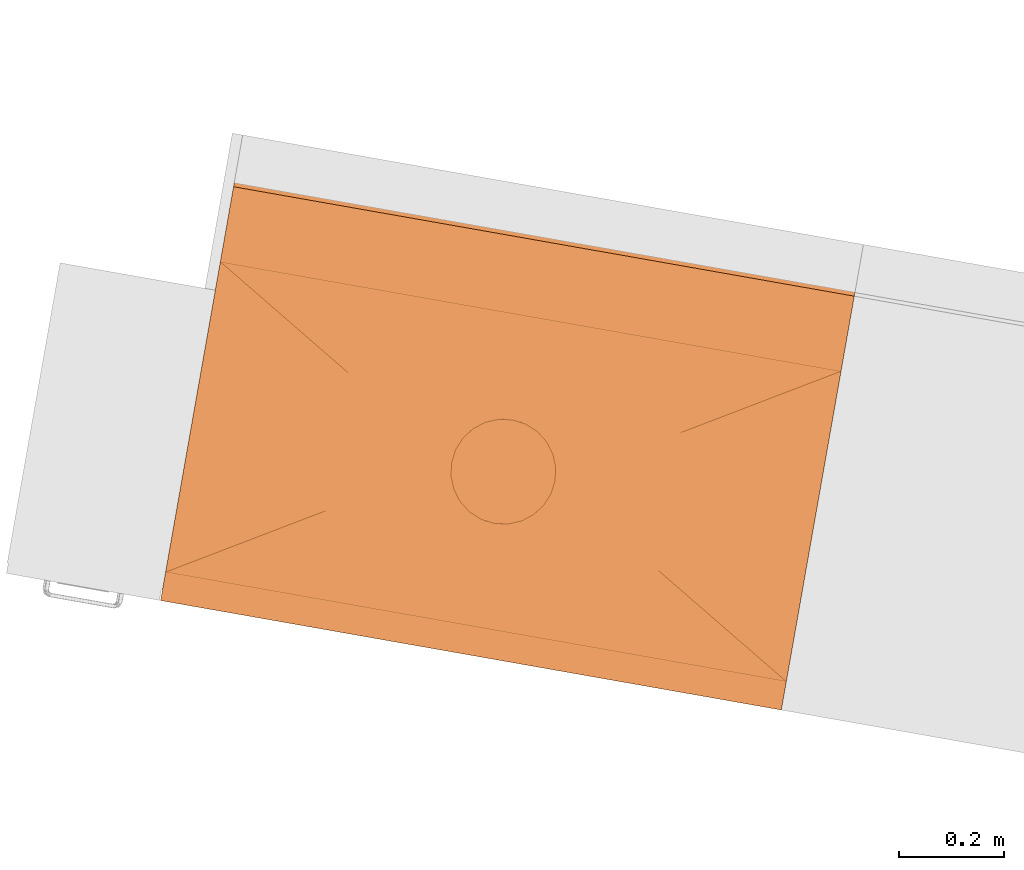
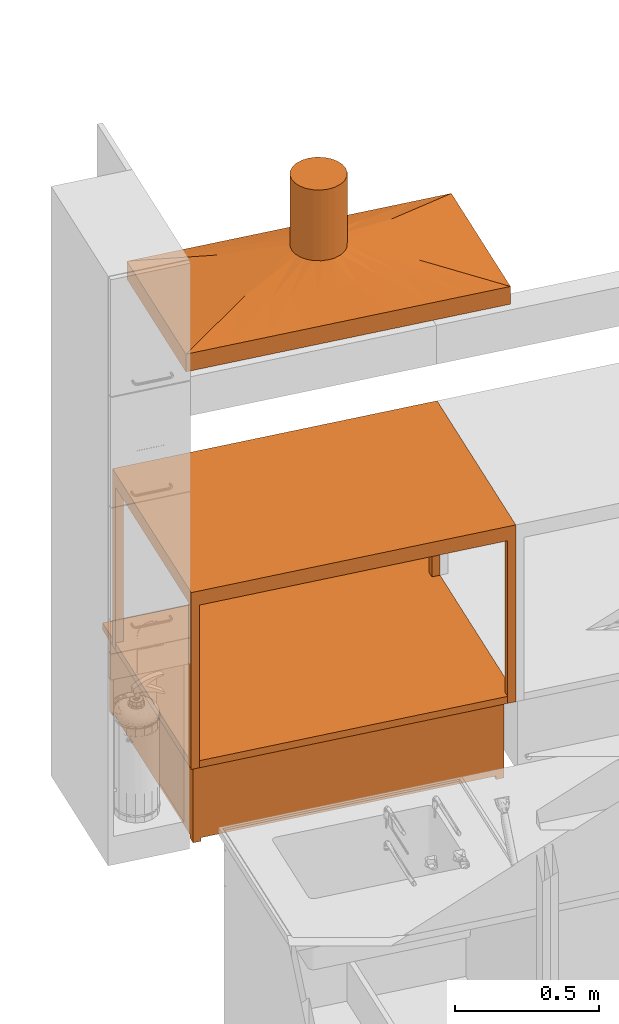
# One storey, part 42 of 43: 3 proxies.
"""IFC2X3 building model written with IfcOpenShell, lengths in metres."""

import ifcopenshell
import ifcopenshell.guid

model = None  # the IFC model being written
_history = None  # IfcOwnerHistory: only IFC2X3 demands one
_inside = {}  # id of a spatial element -> (the spatial element, [elements in it])
_under = {}  # id of a project, library or spatial element -> (it, [spatial elements below it])
_declared = {}  # id of a project -> (the project, [libraries it declares])
_typed = {}  # id of a type object -> (the type object, [elements of that type])
_made_of = {}  # id of a material, layer set ... -> (it, [elements and type objects made of it])


def new_model(schema):
    """Start an empty IFC model of exactly this schema.

    Asked for "IFC4X3", IfcOpenShell would pick the latest addendum, in which some entities
    have other attributes; the version numbers below select the first issue.
    IFC2X3 requires an IfcOwnerHistory on every rooted entity: one is made here for all.
    """
    global model, _history
    if schema == "IFC4X3":
        model = ifcopenshell.file(schema_version=(4, 3, 0, 0))
    else:
        model = ifcopenshell.file(schema=schema)
    _inside.clear()
    _under.clear()
    _declared.clear()
    _typed.clear()
    _made_of.clear()
    _history = None
    if model.schema == "IFC2X3":
        org = make("IfcOrganization", Name="unknown")
        user = make(
            "IfcPersonAndOrganization",
            ThePerson=make("IfcPerson", FamilyName="unknown"),
            TheOrganization=org,
        )
        app = make(
            "IfcApplication",
            ApplicationDeveloper=org,
            Version="unknown",
            ApplicationFullName="unknown",
            ApplicationIdentifier="unknown",
        )
        _history = make(
            "IfcOwnerHistory",
            OwningUser=user,
            OwningApplication=app,
            ChangeAction="ADDED",
            CreationDate=0,
        )
    return model


def make(cls, **values):
    """One entity of the class cls with the attributes given. An attribute that is None is left unset."""
    return model.create_entity(
        cls, **{name: value for name, value in values.items() if value is not None}
    )


def entity(cls, *values):
    """Any entity or typed value of the class cls, its attributes in the order of the schema. None: left unset."""
    e = model.create_entity(cls)
    for i, value in enumerate(values):
        if value is not None:
            e[i] = value
    return e


def rooted(cls, **values):
    """An entity with a GlobalId (a new one), such as an element, a storey or a relation."""
    return make(cls, GlobalId=ifcopenshell.guid.new(), OwnerHistory=_history, **values)


def si_unit(unit_type, name, prefix=None):
    """IfcSIUnit, for example si_unit("LENGTHUNIT", "METRE", prefix="MILLI")."""
    return make("IfcSIUnit", UnitType=unit_type, Prefix=prefix, Name=name)


def converted_unit(unit_type, name, factor, base, dimensions=None, offset=None):
    """IfcConversionBasedUnit, such as the inch: factor (a typed value) times the base unit."""
    return make(
        "IfcConversionBasedUnit"
        if offset is None
        else "IfcConversionBasedUnitWithOffset",
        ConversionOffset=offset,
        Dimensions=None
        if dimensions is None
        else entity("IfcDimensionalExponents", *dimensions),
        UnitType=unit_type,
        Name=name,
        ConversionFactor=make(
            "IfcMeasureWithUnit", ValueComponent=factor, UnitComponent=base
        ),
    )


def derived_unit(unit_type, elements):
    """IfcDerivedUnit: a product of units, each with its exponent."""
    return make(
        "IfcDerivedUnit",
        Elements=[
            make("IfcDerivedUnitElement", Unit=unit, Exponent=power)
            for unit, power in elements
        ],
        UnitType=unit_type,
    )


def assignment(units):
    """IfcUnitAssignment: the units of a project."""
    return None if units is None else make("IfcUnitAssignment", Units=units)


def point(xyz):
    """IfcCartesianPoint."""
    return None if xyz is None else make("IfcCartesianPoint", Coordinates=xyz)


def direction(xyz):
    """IfcDirection."""
    return None if xyz is None else make("IfcDirection", DirectionRatios=xyz)


def frame(location, z_axis=None, x_axis=None):
    """IfcAxis2Placement3D, a coordinate frame: its origin and axes. An axis left out is left unset."""
    return make(
        "IfcAxis2Placement3D",
        Location=point(location),
        Axis=direction(z_axis),
        RefDirection=direction(x_axis),
    )


def origin():
    """The frame at (0, 0, 0) with its axes left unset."""
    return frame((0.0, 0.0, 0.0))


def place(relative_to, where):
    """IfcLocalPlacement: puts the frame where relative to a parent placement (None: the world)."""
    return make(
        "IfcLocalPlacement", PlacementRelTo=relative_to, RelativePlacement=where
    )


def context(
    kind, dimensions, precision=None, world=None, true_north=None, identifier=None
):
    """IfcGeometricRepresentationContext, for example the 3D "Model" context."""
    return make(
        "IfcGeometricRepresentationContext",
        ContextIdentifier=identifier,
        ContextType=kind,
        CoordinateSpaceDimension=dimensions,
        Precision=precision,
        WorldCoordinateSystem=world,
        TrueNorth=true_north,
    )


def subcontext(parent, identifier, kind, view, scale=None):
    """IfcGeometricRepresentationSubContext, for example "Body" below "Model"."""
    return make(
        "IfcGeometricRepresentationSubContext",
        ContextIdentifier=identifier,
        ContextType=kind,
        ParentContext=parent,
        TargetScale=scale,
        TargetView=view,
    )


def project(units=None, contexts=None):
    """IfcProject with its units and contexts."""
    return rooted(
        "IfcProject",
        Name="project",
        RepresentationContexts=contexts,
        UnitsInContext=assignment(units),
    )


def spatial(cls, under=None, at=None, **own):
    """A site, building, storey or space (cls), placed at a placement, below another one or the project."""
    s = rooted(cls, ObjectPlacement=at, **own)
    if under is not None:
        _under.setdefault(under.id(), (under, []))[1].append(s)
    return s


def faces_of(points, faces, orient=None, outer=None):
    """IfcFace entities. A face is a list of loops; a loop is a list of indices into points, from 0.

    orient and outer hold one flag for each loop. By default every Orientation is true, the
    first loop of a face is its IfcFaceOuterBound and the others are IfcFaceBound.
    """
    made = []
    for i, loops in enumerate(faces):
        bounds = []
        for j, loop in enumerate(loops):
            is_outer = j == 0 if outer is None else outer[i][j]
            bounds.append(
                make(
                    "IfcFaceOuterBound" if is_outer else "IfcFaceBound",
                    Bound=make("IfcPolyLoop", Polygon=[points[k] for k in loop]),
                    Orientation=True if orient is None else orient[i][j],
                )
            )
        made.append(make("IfcFace", Bounds=bounds))
    return made


def faceted_brep(points, faces, orient=None, outer=None, voids=None):
    """IfcFacetedBrep: a solid bounded by flat faces; with voids (closed shells), ...WithVoids."""
    shared = [point(p) for p in points]
    hull = make("IfcClosedShell", CfsFaces=faces_of(shared, faces, orient, outer))
    if voids is None:
        return make("IfcFacetedBrep", Outer=hull)
    return make(
        "IfcFacetedBrepWithVoids",
        Outer=hull,
        Voids=[
            make(cls, CfsFaces=faces_of(shared, fs, o, b)) for cls, fs, o, b in voids
        ],
    )


def shape(context_of_items, identifier, shape_type, items):
    """IfcShapeRepresentation: the items that make up one representation, for example the "Body"."""
    return make(
        "IfcShapeRepresentation",
        ContextOfItems=context_of_items,
        RepresentationIdentifier=identifier,
        RepresentationType=shape_type,
        Items=items,
    )


def source(mapping_origin, context_of_items, identifier, shape_type, items):
    """IfcRepresentationMap: a shape defined once, which mapped items show again and again."""
    return make(
        "IfcRepresentationMap",
        MappingOrigin=mapping_origin,
        MappedRepresentation=shape(context_of_items, identifier, shape_type, items),
    )


def transform(
    local_origin,
    x_axis=None,
    y_axis=None,
    z_axis=None,
    scale=None,
    scale2=None,
    scale3=None,
    uniform=True,
):
    """IfcCartesianTransformationOperator3D, or its non-uniform kind. x_axis, y_axis, z_axis: its Axis1, 2, 3."""
    if uniform:
        return make(
            "IfcCartesianTransformationOperator3D",
            Axis1=direction(x_axis),
            Axis2=direction(y_axis),
            LocalOrigin=point(local_origin),
            Scale=scale,
            Axis3=direction(z_axis),
        )
    return make(
        "IfcCartesianTransformationOperator3DnonUniform",
        Axis1=direction(x_axis),
        Axis2=direction(y_axis),
        LocalOrigin=point(local_origin),
        Scale=scale,
        Axis3=direction(z_axis),
        Scale2=scale2,
        Scale3=scale3,
    )


def mapped(mapping_source, mapping_target):
    """IfcMappedItem: shows the shape of a source again, moved by a transform."""
    return make(
        "IfcMappedItem", MappingSource=mapping_source, MappingTarget=mapping_target
    )


def material(Name=None, Category=None):
    """IfcMaterial."""
    return make("IfcMaterial", Name=Name, Category=Category)


def material_list(materials):
    """IfcMaterialList."""
    return make("IfcMaterialList", Materials=materials)


def made_of(thing, what):
    """Note that an element or type object is made of a material, layer set ...; save() writes the relation."""
    if what is not None:
        _made_of.setdefault(what.id(), (what, []))[1].append(thing)
    return thing


def type_object(cls, material=None, **own):
    """A type object (cls), such as IfcWallType, which elements share."""
    return made_of(rooted(cls, **own), material)


def type_shapes(of_type, sources):
    """Give a type object the sources (RepresentationMaps) that its elements show as mapped items."""
    of_type.RepresentationMaps = sources


def element(
    cls,
    number,
    at=None,
    inside=None,
    cuts=None,
    type_object=None,
    material=None,
    context=None,
    identifier="Body",
    shape_type=None,
    held_by="IfcProductDefinitionShape",
    body=None,
    shapes=None,
    **own,
):
    """One element of the class cls, such as IfcWall. Its Tag is "e" and its number.

    at: its placement. inside: the storey or other place that contains it. cuts: it is an
    opening in that element (IfcRelVoidsElement). A single representation is given by context,
    identifier, shape_type and body (its items); several are given by shapes. held_by: the class
    of the entity that holds the representations. save() writes the other relations.
    """
    e = rooted(cls, Tag="e%d" % number, ObjectPlacement=at, **own)
    if body is not None:
        shapes = [shape(context, identifier, shape_type, body)]
    if shapes is not None:
        e.Representation = make(held_by, Representations=shapes)
    if inside is not None:
        _inside.setdefault(inside.id(), (inside, []))[1].append(e)
    if cuts is not None:
        rooted(
            "IfcRelVoidsElement", RelatingBuildingElement=cuts, RelatedOpeningElement=e
        )
    if type_object is not None:
        _typed.setdefault(type_object.id(), (type_object, []))[1].append(e)
    return made_of(e, material)


def aggregate(whole, parts):
    """IfcRelAggregates: a whole, such as a stair, and the parts it consists of."""
    return rooted("IfcRelAggregates", RelatingObject=whole, RelatedObjects=parts)


def save(model, path):
    """Write the relations noted so far, then the file.

    IfcRelAggregates (storeys below a building ...), IfcRelContainedInSpatialStructure (elements
    in a storey), IfcRelDefinesByType, IfcRelAssociatesMaterial and IfcRelDeclares: one each for
    every whole, place, type object, material and project.
    """
    for whole, parts in _under.values():
        aggregate(whole, parts)
    for where, things in _inside.values():
        rooted(
            "IfcRelContainedInSpatialStructure",
            RelatedElements=things,
            RelatingStructure=where,
        )
    for kind, things in _typed.values():
        rooted("IfcRelDefinesByType", RelatedObjects=things, RelatingType=kind)
    for what, things in _made_of.values():
        rooted("IfcRelAssociatesMaterial", RelatedObjects=things, RelatingMaterial=what)
    for by, libraries in _declared.values():
        rooted("IfcRelDeclares", RelatingContext=by, RelatedDefinitions=libraries)
    model.write(path)


model = new_model("IFC2X3")

# Units and contexts
model_context = context("Model", 3, precision=1e-05, world=origin(), true_north=direction((6.12303176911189e-17, 1.0)))
body_context = subcontext(model_context, "Body", "Model", "MODEL_VIEW")
ifc_project = project(units=[si_unit("LENGTHUNIT", "METRE"), si_unit("AREAUNIT", "SQUARE_METRE"), si_unit("VOLUMEUNIT", "CUBIC_METRE"), converted_unit("PLANEANGLEUNIT", "DEGREE", entity("IfcRatioMeasure", 0.0174532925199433), si_unit("PLANEANGLEUNIT", "RADIAN"), dimensions=[0, 0, 0, 0, 0, 0, 0]), si_unit("MASSUNIT", "GRAM", prefix="KILO"), derived_unit("MASSDENSITYUNIT", [(si_unit("MASSUNIT", "GRAM", prefix="KILO"), 1), (si_unit("LENGTHUNIT", "METRE"), -3)]), derived_unit("MOMENTOFINERTIAUNIT", [(si_unit("LENGTHUNIT", "METRE"), 4)]), si_unit("TIMEUNIT", "SECOND"), si_unit("FREQUENCYUNIT", "HERTZ"), si_unit("THERMODYNAMICTEMPERATUREUNIT", "DEGREE_CELSIUS"), derived_unit("THERMALTRANSMITTANCEUNIT", [(si_unit("MASSUNIT", "GRAM", prefix="KILO"), 1), (si_unit("THERMODYNAMICTEMPERATUREUNIT", "KELVIN"), -1), (si_unit("TIMEUNIT", "SECOND"), -3)]), derived_unit("VOLUMETRICFLOWRATEUNIT", [(si_unit("LENGTHUNIT", "METRE"), 3), (si_unit("TIMEUNIT", "SECOND"), -1)]), si_unit("ELECTRICCURRENTUNIT", "AMPERE"), si_unit("ELECTRICVOLTAGEUNIT", "VOLT"), si_unit("POWERUNIT", "WATT"), si_unit("FORCEUNIT", "NEWTON", prefix="KILO"), si_unit("ILLUMINANCEUNIT", "LUX"), si_unit("LUMINOUSFLUXUNIT", "LUMEN"), si_unit("LUMINOUSINTENSITYUNIT", "CANDELA"), derived_unit("USERDEFINED", [(si_unit("MASSUNIT", "GRAM", prefix="KILO"), -1), (si_unit("LENGTHUNIT", "METRE"), -2), (si_unit("TIMEUNIT", "SECOND"), 3), (si_unit("LUMINOUSFLUXUNIT", "LUMEN"), 1)]), derived_unit("LINEARVELOCITYUNIT", [(si_unit("LENGTHUNIT", "METRE"), 1), (si_unit("TIMEUNIT", "SECOND"), -1)]), si_unit("PRESSUREUNIT", "PASCAL"), derived_unit("USERDEFINED", [(si_unit("LENGTHUNIT", "METRE"), -2), (si_unit("MASSUNIT", "GRAM", prefix="KILO"), 1), (si_unit("TIMEUNIT", "SECOND"), -2)]), derived_unit("LINEARFORCEUNIT", [(si_unit("MASSUNIT", "GRAM", prefix="KILO"), 1), (si_unit("LENGTHUNIT", "METRE"), 1), (si_unit("TIMEUNIT", "SECOND"), -2), (si_unit("LENGTHUNIT", "METRE"), -1)]), derived_unit("PLANARFORCEUNIT", [(si_unit("MASSUNIT", "GRAM", prefix="KILO"), 1), (si_unit("LENGTHUNIT", "METRE"), 1), (si_unit("TIMEUNIT", "SECOND"), -2), (si_unit("LENGTHUNIT", "METRE"), -2)])], contexts=[model_context])

# Site, building, storey
site_placement = place(None, origin())
site = spatial("IfcSite", under=ifc_project, at=site_placement, Name="Default", CompositionType="ELEMENT")
building_placement = place(site_placement, origin())
building = spatial("IfcBuilding", under=site, at=building_placement, CompositionType="ELEMENT")
storey_placement = place(building_placement, frame((0.0, 0.0, 3.0)))
storey = spatial("IfcBuildingStorey", under=building, at=storey_placement, Name="01 OG", CompositionType="ELEMENT", Elevation=3.0)

# Proxies
ifc_material_1 = material(Name="dh_Weiß")
ifc_material_2 = material(Name="dh_EZ blau")
ifc_material_list_1 = material_list([ifc_material_1, ifc_material_2])
ifc_material_list_2 = material_list([ifc_material_2, ifc_material_1])
building_element_proxy_type_1 = type_object("IfcBuildingElementProxyType", Name="dh_Tieftisch:dh_Tieftisch 120", PredefinedType="NOTDEFINED", material=ifc_material_list_2)
shared_shape_1 = source(origin(), body_context, "Body", "Brep", [
    faceted_brep([(0.600000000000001, 0.425, 0.379999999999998), (-0.599999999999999, 0.425, 0.380000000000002), (-0.599999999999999, -0.475, 0.380000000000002), (0.600000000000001, -0.475, 0.379999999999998), (0.600000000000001, 0.425, 0.349999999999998), (0.600000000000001, -0.475, 0.349999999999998), (-0.599999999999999, -0.475, 0.350000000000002), (-0.599999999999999, 0.425, 0.350000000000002)], [[[0, 1, 2, 3]], [[4, 5, 6, 7]], [[1, 0, 4, 7]], [[2, 1, 7, 6]], [[3, 2, 6, 5]], [[0, 3, 5, 4]]]),
    faceted_brep([(0.575000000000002, 0.425, 0.349999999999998), (-0.574999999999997, 0.425, 0.350000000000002), (-0.574999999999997, -0.425, 0.350000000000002), (0.575000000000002, -0.425, 0.349999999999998), (0.545000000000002, 0.395, 0.349999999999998), (0.545000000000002, -0.395, 0.349999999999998), (-0.544999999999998, -0.395, 0.350000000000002), (-0.544999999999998, 0.395, 0.350000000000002), (-0.544999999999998, 0.395, 0.320000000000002), (-0.544999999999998, -0.395, 0.320000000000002), (-0.574999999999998, -0.395, 0.320000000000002), (-0.574999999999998, 0.395, 0.320000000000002), (0.575, 0.425, 0.0), (0.545, 0.425, 0.0), (0.545, 0.425, 0.319999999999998), (-0.544999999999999, 0.425, 0.32), (-0.544999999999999, 0.425, 0.0), (-0.574999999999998, 0.425, 0.0), (-0.575, 0.395, 0.0), (-0.575, -0.395, 0.0), (-0.575, -0.425, 0.0), (-0.544999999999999, -0.425, 0.0), (-0.544999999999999, -0.425, 0.320000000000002), (0.545, -0.425, 0.32), (0.545, -0.425, 0.0), (0.575000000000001, -0.425, 0.0), (0.575, -0.395, 0.0), (0.575000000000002, -0.395, 0.319999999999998), (0.575000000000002, 0.395, 0.32), (0.575, 0.395, 0.0), (0.545000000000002, 0.395, 0.319999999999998), (0.545000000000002, -0.395, 0.319999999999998), (-0.544999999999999, -0.395, 0.0), (-0.544999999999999, 0.395, 0.0), (0.545, 0.395, 0.0), (0.545, -0.395, 0.0)], [[[0, 1, 2, 3], [4, 5, 6, 7]], [[8, 9, 10, 11]], [[1, 0, 12, 13, 14, 15, 16, 17]], [[2, 1, 17, 18, 11, 10, 19, 20]], [[3, 2, 20, 21, 22, 23, 24, 25]], [[12, 0, 3, 25, 26, 27, 28, 29]], [[5, 4, 30, 31]], [[6, 5, 31, 9]], [[7, 6, 9, 8]], [[4, 7, 8, 30]], [[21, 20, 19, 32]], [[18, 33, 8, 11]], [[33, 16, 15, 8]], [[13, 34, 30, 14]], [[34, 29, 28, 30]], [[21, 32, 9, 22]], [[32, 19, 10, 9]], [[26, 35, 31, 27]], [[35, 24, 23, 31]], [[16, 33, 18, 17]], [[24, 35, 26, 25]], [[13, 12, 29, 34]], [[9, 31, 23, 22]], [[30, 8, 15, 14]], [[31, 30, 28, 27]]]),
    faceted_brep([(-0.575, -0.395, 0.32), (-0.570000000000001, -0.395, 0.32), (-0.570000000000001, 0.395, 0.32), (-0.575, 0.395, 0.32), (-0.575, -0.395, 0.0149999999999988), (-0.570000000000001, -0.395, 0.0149999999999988), (-0.570000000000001, 0.395, 0.0149999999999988), (-0.575, 0.395, 0.0149999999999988)], [[[0, 1, 2, 3]], [[1, 0, 4, 5]], [[2, 1, 5, 6]], [[3, 2, 6, 7]], [[0, 3, 7, 4]], [[4, 7, 6, 5]]]),
    faceted_brep([(0.575, 0.395, 0.0149999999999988), (0.575, -0.395, 0.0149999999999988), (0.57, -0.395, 0.0149999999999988), (0.57, 0.395, 0.0149999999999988), (0.57, 0.395, 0.32), (0.575, 0.395, 0.32), (0.57, -0.395, 0.32), (0.575, -0.395, 0.32)], [[[0, 1, 2, 3]], [[4, 5, 0, 3]], [[6, 4, 3, 2]], [[7, 6, 2, 1]], [[5, 7, 1, 0]], [[5, 4, 6, 7]]]),
    faceted_brep([(0.545, -0.420000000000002, 0.32), (0.545, -0.425, 0.32), (0.545, -0.425, 0.0149999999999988), (0.545, -0.420000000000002, 0.0149999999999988), (-0.545, -0.420000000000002, 0.32), (-0.544999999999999, -0.420000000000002, 0.0149999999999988), (-0.544999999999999, -0.425, 0.32), (-0.544999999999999, -0.425, 0.0149999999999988)], [[[0, 1, 2, 3]], [[4, 0, 3, 5]], [[6, 4, 5, 7]], [[1, 6, 7, 2]], [[2, 7, 5, 3]], [[1, 0, 4, 6]]]),
])
type_shapes(building_element_proxy_type_1, [shared_shape_1])
proxy_1_placement = place(storey_placement, frame((28.0610393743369, 15.687439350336, 0.0), z_axis=(0.0, 0.0, 1.0), x_axis=(0.984807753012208, -0.173648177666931, 0.0)))
element("IfcBuildingElementProxy", 1, at=proxy_1_placement, inside=storey, type_object=building_element_proxy_type_1, material=ifc_material_list_1, Name="dh_Tieftisch:dh_Tieftisch 120", ObjectType="dh_Tieftisch:dh_Tieftisch 120", context=body_context, shape_type="MappedRepresentation", body=[
    mapped(shared_shape_1, transform((0.0, 0.0, 0.0), scale=1.0)),
])
ifc_material_3 = material(Name="Schwarz")
ifc_material_list_3 = material_list([ifc_material_1, ifc_material_2, ifc_material_3])
ifc_material_list_4 = material_list([ifc_material_3, ifc_material_1])
building_element_proxy_type_2 = type_object("IfcBuildingElementProxyType", Name="dh_Tisch:dh_Tisch", PredefinedType="NOTDEFINED", material=ifc_material_list_4)
shared_shape_2 = source(origin(), body_context, "Body", "Brep", [
    faceted_brep([(0.59999999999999, 0.0, 0.749999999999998), (-0.599999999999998, 0.0, 0.750000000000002), (-0.599999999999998, -0.8, 0.750000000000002), (0.600000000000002, -0.8, 0.749999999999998), (0.59999999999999, 0.0, 0.719999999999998), (0.600000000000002, -0.8, 0.719999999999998), (-0.599999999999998, -0.8, 0.720000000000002), (-0.599999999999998, 0.0, 0.720000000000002)], [[[0, 1, 2, 3]], [[4, 5, 6, 7]], [[1, 0, 4, 7]], [[2, 1, 7, 6]], [[3, 2, 6, 5]], [[0, 3, 5, 4]]]),
    faceted_brep([(0.57, -0.8, 0.00499999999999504), (0.57, -0.770000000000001, 0.00499999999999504), (0.6, -0.770000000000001, 0.00499999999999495), (0.6, -0.8, 0.00499999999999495), (-0.6, -0.0300000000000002, 0.00499999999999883), (-0.57, -0.0300000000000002, 0.00499999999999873), (-0.569999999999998, -0.0300000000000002, 0.690000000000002), (-0.599999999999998, -0.0300000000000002, 0.690000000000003), (-0.57, 0.0, 0.00499999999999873), (-0.569999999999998, 0.0, 0.690000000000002), (-0.6, 0.0, 0.00499999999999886), (-0.599999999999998, 0.0, 0.720000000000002), (0.59999999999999, 0.0, 0.719999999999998), (0.6, 0.0, 0.00499999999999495), (0.57, 0.0, 0.00499999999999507), (0.570000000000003, 0.0, 0.689999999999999), (-0.599999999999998, -0.770000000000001, 0.690000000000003), (-0.6, -0.770000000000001, 0.00499999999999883), (-0.6, -0.8, 0.00499999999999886), (-0.599999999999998, -0.8, 0.720000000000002), (0.57, -0.030000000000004, 0.00499999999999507), (0.570000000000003, -0.030000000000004, 0.689999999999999), (0.6, -0.030000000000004, 0.00499999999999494), (0.600000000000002, -0.030000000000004, 0.689999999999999), (0.600000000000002, -0.8, 0.719999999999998), (0.600000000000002, -0.770000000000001, 0.689999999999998), (-0.57, -0.8, 0.00499999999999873), (-0.569999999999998, -0.8, 0.690000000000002), (0.570000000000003, -0.8, 0.689999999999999), (0.570000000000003, -0.770000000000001, 0.689999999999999), (-0.57, -0.770000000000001, 0.00499999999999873), (-0.569999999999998, -0.770000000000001, 0.690000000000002), (0.569999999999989, -0.0300000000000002, 0.719999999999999), (0.570000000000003, -0.770000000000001, 0.719999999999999), (-0.569999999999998, -0.770000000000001, 0.720000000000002), (-0.569999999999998, -0.0300000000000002, 0.720000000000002)], [[[0, 1, 2, 3]], [[4, 5, 6, 7]], [[5, 8, 9, 6]], [[8, 10, 11, 12, 13, 14, 15, 9]], [[11, 10, 4, 7, 16, 17, 18, 19]], [[14, 20, 21, 15]], [[20, 22, 23, 21]], [[22, 13, 12, 24, 3, 2, 25, 23]], [[0, 3, 24, 19, 18, 26, 27, 28]], [[2, 1, 29, 25]], [[1, 0, 28, 29]], [[26, 30, 31, 27]], [[30, 17, 16, 31]], [[12, 11, 19, 24], [32, 33, 34, 35]], [[6, 31, 16, 7]], [[33, 32, 21, 29]], [[34, 33, 29, 31]], [[35, 34, 31, 6]], [[32, 35, 6, 21]], [[31, 29, 28, 27]], [[21, 6, 9, 15]], [[29, 21, 23, 25]], [[14, 13, 22, 20]], [[4, 10, 8, 5]], [[17, 30, 26, 18]]]),
    faceted_brep([(-0.6, -0.8, 0.00499999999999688), (-0.57, -0.8, 0.00499999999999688), (-0.57, -0.770000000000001, 0.00499999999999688), (-0.6, -0.770000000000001, 0.00499999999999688), (-0.6, -0.8, 0.0), (-0.57, -0.8, 0.0), (-0.57, -0.770000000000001, 0.0), (-0.6, -0.770000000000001, 0.0)], [[[0, 1, 2, 3]], [[1, 0, 4, 5]], [[2, 1, 5, 6]], [[3, 2, 6, 7]], [[0, 3, 7, 4]], [[4, 7, 6, 5]]]),
    faceted_brep([(0.57, -0.8, 0.0), (0.57, -0.770000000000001, 0.0), (0.6, -0.770000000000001, 0.0), (0.6, -0.8, 0.0), (0.6, -0.8, 0.00499999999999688), (0.57, -0.8, 0.00499999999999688), (0.6, -0.770000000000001, 0.00499999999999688), (0.57, -0.770000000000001, 0.00499999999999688)], [[[0, 1, 2, 3]], [[4, 5, 0, 3]], [[6, 4, 3, 2]], [[7, 6, 2, 1]], [[5, 7, 1, 0]], [[5, 4, 6, 7]]]),
    faceted_brep([(-0.57, -0.0300000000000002, 0.00499999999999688), (-0.6, -0.0300000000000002, 0.00499999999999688), (-0.6, -0.0300000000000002, 0.0), (-0.57, -0.0300000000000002, 0.0), (-0.57, 0.0, 0.00499999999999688), (-0.57, 0.0, 0.0), (-0.6, 0.0, 0.00499999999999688), (-0.6, 0.0, 0.0)], [[[0, 1, 2, 3]], [[4, 0, 3, 5]], [[6, 4, 5, 7]], [[1, 6, 7, 2]], [[2, 7, 5, 3]], [[1, 0, 4, 6]]]),
    faceted_brep([(0.6, -0.030000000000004, 0.00499999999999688), (0.57, -0.030000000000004, 0.00499999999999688), (0.57, -0.030000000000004, 0.0), (0.6, -0.030000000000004, 0.0), (0.6, 0.0, 0.00499999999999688), (0.6, 0.0, 0.0), (0.57, 0.0, 0.00499999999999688), (0.57, 0.0, 0.0)], [[[0, 1, 2, 3]], [[4, 0, 3, 5]], [[6, 4, 5, 7]], [[1, 6, 7, 2]], [[2, 7, 5, 3]], [[1, 0, 4, 6]]]),
])
type_shapes(building_element_proxy_type_2, [shared_shape_2])
proxy_2_placement = place(storey_placement, frame((28.1174750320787, 16.0075018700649, 0.35), z_axis=(0.0, 0.0, 1.0), x_axis=(0.984807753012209, -0.173648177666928, 0.0)))
element("IfcBuildingElementProxy", 2, at=proxy_2_placement, inside=storey, type_object=building_element_proxy_type_2, material=ifc_material_list_3, Name="dh_Tisch:dh_Tisch", ObjectType="dh_Tisch:dh_Tisch", context=body_context, shape_type="MappedRepresentation", body=[
    mapped(shared_shape_2, transform((0.0, 0.0, 0.0), scale=1.0)),
])
ifc_material_4 = material(Name="dh_Edelstahl_Horizontal")
building_element_proxy_type_3 = type_object("IfcBuildingElementProxyType", Name="dh_Absaughaube:dh_Absaughaube", PredefinedType="NOTDEFINED", material=ifc_material_4)
shared_shape_3 = source(origin(), body_context, "Body", "Brep", [
    faceted_brep([(0.649999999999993, 0.213397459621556, 0.500000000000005), (0.670710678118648, 0.229289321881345, 0.500000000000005), (0.686602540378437, 0.25, 0.500000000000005), (0.6965925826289, 0.274118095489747, 0.500000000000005), (0.699999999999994, 0.3, 0.500000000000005), (0.6965925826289, 0.325881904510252, 0.500000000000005), (0.686602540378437, 0.35, 0.500000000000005), (0.670710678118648, 0.370710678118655, 0.500000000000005), (0.649999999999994, 0.386602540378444, 0.500000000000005), (0.625881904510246, 0.396592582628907, 0.500000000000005), (0.599999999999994, 0.4, 0.500000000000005), (0.574118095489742, 0.396592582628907, 0.500000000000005), (0.549999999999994, 0.386602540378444, 0.500000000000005), (0.529289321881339, 0.370710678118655, 0.500000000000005), (0.51339745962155, 0.35, 0.500000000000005), (0.503407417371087, 0.325881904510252, 0.500000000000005), (0.499999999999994, 0.3, 0.500000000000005), (0.503407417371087, 0.274118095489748, 0.500000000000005), (0.513397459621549, 0.25, 0.500000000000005), (0.529289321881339, 0.229289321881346, 0.500000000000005), (0.549999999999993, 0.213397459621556, 0.500000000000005), (0.574118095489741, 0.203407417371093, 0.500000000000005), (0.599999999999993, 0.2, 0.500000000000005), (0.625881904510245, 0.203407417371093, 0.500000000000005), (0.670710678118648, 0.370710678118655, 0.200000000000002), (0.686602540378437, 0.35, 0.200000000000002), (0.6965925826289, 0.325881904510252, 0.200000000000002), (0.699999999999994, 0.299999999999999, 0.200000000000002), (0.6965925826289, 0.274118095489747, 0.200000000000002), (0.686602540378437, 0.25, 0.200000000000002), (0.670710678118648, 0.229289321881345, 0.200000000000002), (0.649999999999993, 0.213397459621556, 0.200000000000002), (0.625881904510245, 0.203407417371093, 0.200000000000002), (0.599999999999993, 0.2, 0.200000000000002), (0.574118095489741, 0.203407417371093, 0.200000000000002), (0.549999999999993, 0.213397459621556, 0.200000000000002), (0.529289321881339, 0.229289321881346, 0.200000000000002), (0.513397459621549, 0.25, 0.200000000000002), (0.503407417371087, 0.274118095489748, 0.200000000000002), (0.499999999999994, 0.3, 0.200000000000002), (0.503407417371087, 0.325881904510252, 0.200000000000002), (0.51339745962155, 0.35, 0.200000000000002), (0.529289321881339, 0.370710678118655, 0.200000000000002), (0.549999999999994, 0.386602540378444, 0.200000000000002), (0.574118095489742, 0.396592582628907, 0.200000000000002), (0.599999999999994, 0.4, 0.200000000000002), (0.625881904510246, 0.396592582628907, 0.200000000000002), (0.649999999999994, 0.386602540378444, 0.200000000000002)], [[[0, 1, 2, 3, 4, 5, 6, 7, 8, 9, 10, 11, 12, 13, 14, 15, 16, 17, 18, 19, 20, 21, 22, 23]], [[24, 25, 26, 27, 28, 29, 30, 31, 32, 33, 34, 35, 36, 37, 38, 39, 40, 41, 42, 43, 44, 45, 46, 47]], [[17, 38, 37, 18]], [[36, 19, 18, 37]], [[20, 35, 34, 21]], [[36, 35, 20, 19]], [[21, 34, 33, 22]], [[38, 17, 16, 39]], [[23, 32, 31, 0]], [[30, 1, 0, 31]], [[2, 29, 28, 3]], [[30, 29, 2, 1]], [[3, 28, 27, 4]], [[32, 23, 22, 33]], [[6, 25, 24, 7]], [[8, 47, 46, 9]], [[24, 47, 8, 7]], [[9, 46, 45, 10]], [[27, 26, 5, 4]], [[5, 26, 25, 6]], [[11, 44, 43, 12]], [[42, 13, 12, 43]], [[14, 41, 40, 15]], [[42, 41, 14, 13]], [[15, 40, 39, 16]], [[44, 11, 10, 45]]]),
    faceted_brep([(0.582635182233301, 0.398480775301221, 0.200000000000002), (0.549999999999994, 0.386602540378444, 0.200000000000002), (0.523395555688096, 0.364278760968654, 0.200000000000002), (0.506030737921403, 0.334202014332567, 0.200000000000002), (0.499999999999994, 0.3, 0.200000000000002), (0.506030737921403, 0.265797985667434, 0.200000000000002), (0.523395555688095, 0.235721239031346, 0.200000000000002), (0.549999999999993, 0.213397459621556, 0.200000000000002), (0.5826351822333, 0.201519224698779, 0.200000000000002), (0.617364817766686, 0.201519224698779, 0.200000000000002), (0.649999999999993, 0.213397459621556, 0.200000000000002), (0.676604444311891, 0.235721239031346, 0.200000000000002), (0.693969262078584, 0.265797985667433, 0.200000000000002), (0.699999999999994, 0.3, 0.200000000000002), (0.693969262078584, 0.334202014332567, 0.200000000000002), (0.676604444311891, 0.364278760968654, 0.200000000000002), (0.649999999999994, 0.386602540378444, 0.200000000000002), (0.617364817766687, 0.398480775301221, 0.200000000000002), (1.2, 0.0, 0.0750000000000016), (1.05, 0.0, 0.0750000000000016), (0.9, 0.0, 0.0750000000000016), (0.75, 0.0, 0.0750000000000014), (0.6, 0.0, 0.0750000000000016), (0.45, 0.0, 0.0750000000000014), (0.3, 0.0, 0.0750000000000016), (0.15, 0.0, 0.0750000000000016), (0.0, 0.0, 0.0750000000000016), (0.0, 0.6, 0.0750000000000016), (0.15, 0.6, 0.0750000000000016), (0.3, 0.6, 0.0750000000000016), (0.45, 0.6, 0.0750000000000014), (0.6, 0.6, 0.0750000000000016), (0.75, 0.6, 0.0750000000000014), (0.9, 0.6, 0.0750000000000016), (1.05, 0.6, 0.0750000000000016), (1.2, 0.6, 0.0750000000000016), (0.276043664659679, 0.16562619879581, 0.144010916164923), (0.276043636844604, 0.434373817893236, 0.144010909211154), (0.923956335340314, 0.43437380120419, 0.144010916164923), (0.923956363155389, 0.165626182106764, 0.144010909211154), (0.837131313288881, 0.470078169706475, 0.139960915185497), (0.673268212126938, 0.493879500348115, 0.139764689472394), (0.600000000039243, 0.490999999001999, 0.143125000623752), (0.362868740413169, 0.47007812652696, 0.139960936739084), (0.43005670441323, 0.48171871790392, 0.140388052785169), (0.769943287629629, 0.481718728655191, 0.140388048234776), (0.526731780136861, 0.493879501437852, 0.139764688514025), (0.263939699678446, 0.488065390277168, 0.12599489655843), (0.362868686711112, 0.129921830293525, 0.139960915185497), (0.526731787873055, 0.106120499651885, 0.139764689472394), (0.59999999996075, 0.109000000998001, 0.143125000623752), (0.837131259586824, 0.12992187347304, 0.139960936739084), (0.769943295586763, 0.11828128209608, 0.140388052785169), (0.430056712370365, 0.11828127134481, 0.140388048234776), (0.673268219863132, 0.106120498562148, 0.139764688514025), (0.936060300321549, 0.111934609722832, 0.12599489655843)], [[[0, 1, 2, 3, 4, 5, 6, 7, 8, 9, 10, 11, 12, 13, 14, 15, 16, 17]], [[18, 19, 20, 21, 22, 23, 24, 25, 26, 27, 28, 29, 30, 31, 32, 33, 34, 35]], [[27, 26, 36, 4, 37]], [[18, 35, 38, 13, 39]], [[40, 15, 14]], [[41, 32, 31]], [[17, 42, 0]], [[38, 35, 34]], [[40, 38, 34]], [[29, 43, 44]], [[45, 15, 40]], [[14, 13, 38]], [[32, 41, 45]], [[41, 31, 42]], [[42, 46, 0]], [[28, 43, 29]], [[33, 40, 34]], [[42, 31, 46]], [[40, 33, 45]], [[2, 43, 3]], [[3, 43, 47]], [[37, 47, 27]], [[38, 40, 14]], [[3, 37, 4]], [[43, 2, 44]], [[44, 30, 29]], [[47, 43, 28]], [[32, 45, 33]], [[16, 15, 45]], [[2, 1, 44]], [[44, 1, 46]], [[42, 17, 41]], [[46, 31, 30]], [[17, 16, 41]], [[45, 41, 16]], [[44, 46, 30]], [[1, 0, 46]], [[27, 47, 28]], [[3, 47, 37]], [[48, 6, 5]], [[49, 23, 22]], [[8, 50, 9]], [[36, 26, 25]], [[48, 36, 25]], [[20, 51, 52]], [[53, 6, 48]], [[5, 4, 36]], [[23, 49, 53]], [[49, 22, 50]], [[50, 54, 9]], [[19, 51, 20]], [[24, 48, 25]], [[50, 22, 54]], [[48, 24, 53]], [[11, 51, 12]], [[12, 51, 55]], [[39, 55, 18]], [[36, 48, 5]], [[12, 39, 13]], [[51, 11, 52]], [[52, 21, 20]], [[55, 51, 19]], [[23, 53, 24]], [[7, 6, 53]], [[11, 10, 52]], [[52, 10, 54]], [[50, 8, 49]], [[54, 22, 21]], [[8, 7, 49]], [[53, 49, 7]], [[52, 54, 21]], [[10, 9, 54]], [[18, 55, 19]], [[12, 55, 39]]]),
    faceted_brep([(1.2, 0.0, 0.0749999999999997), (1.2, 0.6, 0.0749999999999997), (0.0, 0.6, 0.0750000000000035), (0.0, 0.0, 0.0750000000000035), (1.2, 0.0, 0.0), (0.0, 0.0, 0.0), (0.0, 0.6, 0.0), (1.2, 0.6, 0.0)], [[[0, 1, 2, 3]], [[4, 5, 6, 7]], [[1, 0, 4, 7]], [[2, 1, 7, 6]], [[3, 2, 6, 5]], [[0, 3, 5, 4]]]),
])
type_shapes(building_element_proxy_type_3, [shared_shape_3])
proxy_3_placement = place(storey_placement, frame((27.3972224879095, 15.378009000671, 2.0), z_axis=(0.0, 0.0, 1.0), x_axis=(0.984807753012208, -0.173648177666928, 0.0)))
element("IfcBuildingElementProxy", 3, at=proxy_3_placement, inside=storey, type_object=building_element_proxy_type_3, material=ifc_material_4, Name="dh_Absaughaube:dh_Absaughaube", ObjectType="dh_Absaughaube:dh_Absaughaube", context=body_context, shape_type="MappedRepresentation", body=[
    mapped(shared_shape_3, transform((0.0, 0.0, 0.0), scale=1.0)),
])

save(model, "model.ifc")
